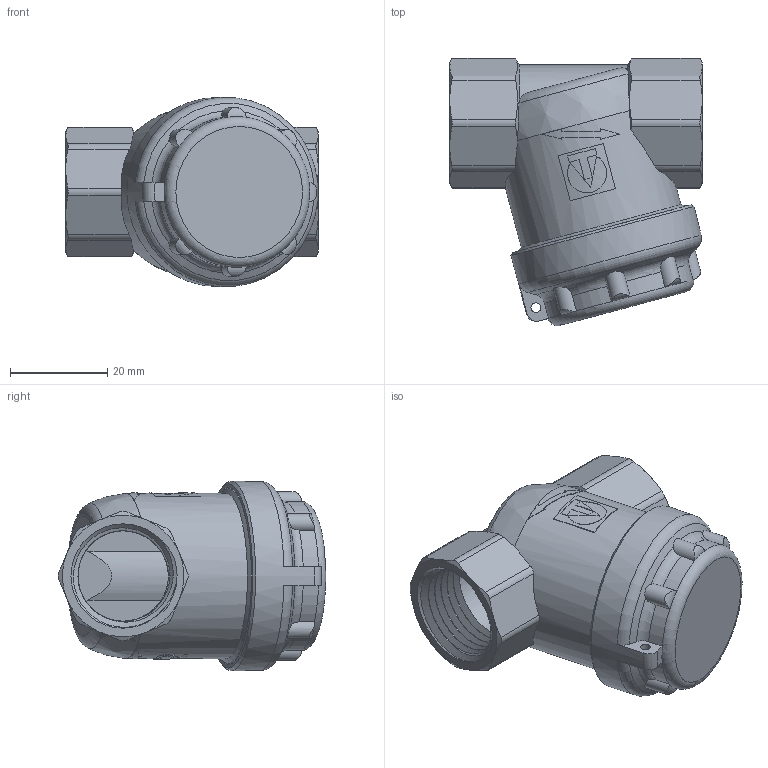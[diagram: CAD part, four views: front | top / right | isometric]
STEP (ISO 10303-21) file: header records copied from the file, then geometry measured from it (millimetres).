
FILE_DESCRIPTION(/* description */ (''),/* implementation_level */ '2;1');
FILE_NAME(/* name */ 'H:\Мишенин_3D\Для каталога DWG\Фильтры\VT.386.N.04.stp',/* time_stamp */ '2019-03-06T08:47:11+03:00',/* author */ ('MisheninAL'),/* organization */ (''),/* preprocessor_version */ 'ST-DEVELOPER v17',/* originating_system */ 'Autodesk Inventor 2019',/* authorisation */ '');
FILE_SCHEMA (('AUTOMOTIVE_DESIGN { 1 0 10303 214 3 1 1 }'));
Length unit declared in the file: millimetre
Products named in the file (1): VT.386.N.04
Bounding box: 52 x 55.07 x 39 mm (x, y, z)
Volume: 28158.2 mm3; surface area: 18018.2 mm2
Topology: 1 solids, 2 shells, 236 faces, 666 edges, 446 vertices
Faces by surface type: plane 92, cylinder 80, cone 31, torus 20, bspline 13
Full cylindrical faces by diameter (mm): 2 x1, 12 x1, 13 x1, 15 x1, 16 x1, 17 x1, 18.6 x8, 22.2 x10, 30.5 x1, 32 x1, 34 x1, 34.5 x1, 35 x1, 36 x1, 39 x1
Entity records: 11800 total; most frequent: CARTESIAN_POINT 6001, ORIENTED_EDGE 1324, DIRECTION 1084, EDGE_CURVE 662, VERTEX_POINT 444, AXIS2_PLACEMENT_3D 442, EDGE_LOOP 256, FACE_OUTER_BOUND 236
